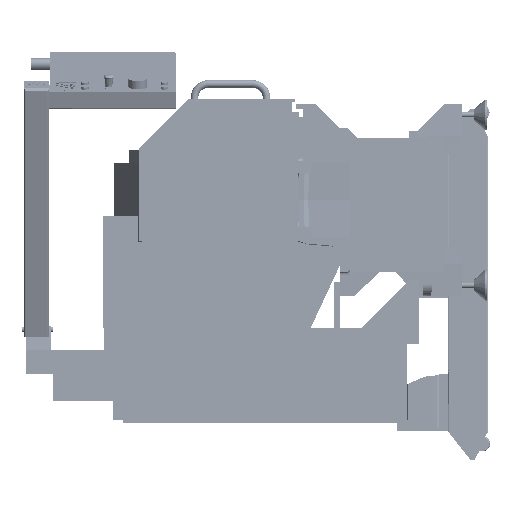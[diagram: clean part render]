
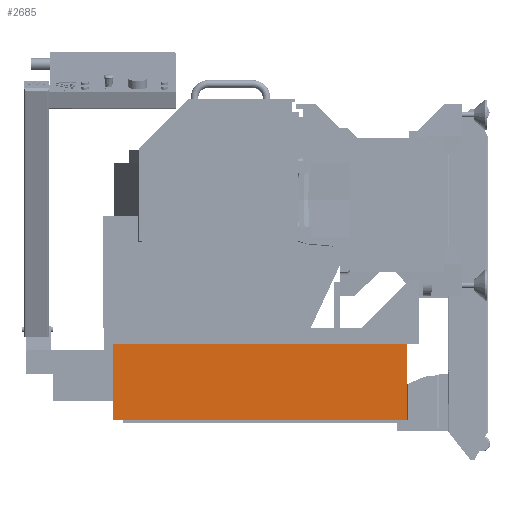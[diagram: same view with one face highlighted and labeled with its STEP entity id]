
A CAD part, left-side view. The second image highlights one B-rep face of the part: STEP entity #2685.
In plain terms, the highlighted planar face has unit normal (-1, 0, 0).
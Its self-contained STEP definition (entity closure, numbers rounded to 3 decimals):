
#1971 = LINE ( 'NONE', #7831, #331034 ) ;
#2685 = ADVANCED_FACE ( 'NONE', ( #365671 ), #304421, .T. ) ;
#7831 = CARTESIAN_POINT ( 'NONE',  ( 20.7, -30.527, -36.045 ) ) ;
#9895 = VERTEX_POINT ( 'NONE', #252400 ) ;
#30286 = VECTOR ( 'NONE', #322498, 39.37 ) ;
#47226 = EDGE_CURVE ( 'NONE', #338571, #9895, #218447, .T. ) ;
#58850 = VERTEX_POINT ( 'NONE', #368816 ) ;
#74020 = DIRECTION ( 'NONE',  ( 0., 1., 0. ) ) ;
#87576 = CARTESIAN_POINT ( 'NONE',  ( 20.7, -30.527, -23.585 ) ) ;
#105084 = CARTESIAN_POINT ( 'NONE',  ( 20.7, -68.622, -36.045 ) ) ;
#124489 = CARTESIAN_POINT ( 'NONE',  ( 20.7, -68.622, -36.045 ) ) ;
#128448 = EDGE_LOOP ( 'NONE', ( #172999, #164797, #139659, #245697 ) ) ;
#139659 = ORIENTED_EDGE ( 'NONE', *, *, #258513, .F. ) ;
#142235 = LINE ( 'NONE', #231276, #391183 ) ;
#144894 = DIRECTION ( 'NONE',  ( 0., -1., 0. ) ) ;
#159348 = EDGE_CURVE ( 'NONE', #338571, #372592, #1971, .T. ) ;
#164797 = ORIENTED_EDGE ( 'NONE', *, *, #47226, .T. ) ;
#172999 = ORIENTED_EDGE ( 'NONE', *, *, #159348, .F. ) ;
#177722 = DIRECTION ( 'NONE',  ( 0., 0., 1. ) ) ;
#195978 = LINE ( 'NONE', #105084, #30286 ) ;
#213624 = DIRECTION ( 'NONE',  ( 0., 0., -1. ) ) ;
#218447 = LINE ( 'NONE', #283626, #248726 ) ;
#231276 = CARTESIAN_POINT ( 'NONE',  ( 20.7, 17.688, -36.045 ) ) ;
#245697 = ORIENTED_EDGE ( 'NONE', *, *, #338980, .F. ) ;
#248726 = VECTOR ( 'NONE', #74020, 39.37 ) ;
#252400 = CARTESIAN_POINT ( 'NONE',  ( 20.7, 17.688, -23.585 ) ) ;
#258513 = EDGE_CURVE ( 'NONE', #58850, #9895, #142235, .T. ) ;
#278664 = DIRECTION ( 'NONE',  ( -1., 0., 0. ) ) ;
#283626 = CARTESIAN_POINT ( 'NONE',  ( 20.7, -68.622, -23.585 ) ) ;
#304421 = PLANE ( 'NONE',  #330433 ) ;
#322498 = DIRECTION ( 'NONE',  ( 0., 1., 0. ) ) ;
#330433 = AXIS2_PLACEMENT_3D ( 'NONE', #124489, #278664, #144894 ) ;
#331034 = VECTOR ( 'NONE', #213624, 39.37 ) ;
#338571 = VERTEX_POINT ( 'NONE', #87576 ) ;
#338980 = EDGE_CURVE ( 'NONE', #372592, #58850, #195978, .T. ) ;
#363686 = CARTESIAN_POINT ( 'NONE',  ( 20.7, -30.527, -36.045 ) ) ;
#365671 = FACE_OUTER_BOUND ( 'NONE', #128448, .T. ) ;
#368816 = CARTESIAN_POINT ( 'NONE',  ( 20.7, 17.688, -36.045 ) ) ;
#372592 = VERTEX_POINT ( 'NONE', #363686 ) ;
#391183 = VECTOR ( 'NONE', #177722, 39.37 ) ;
